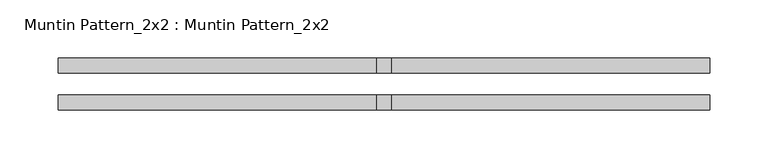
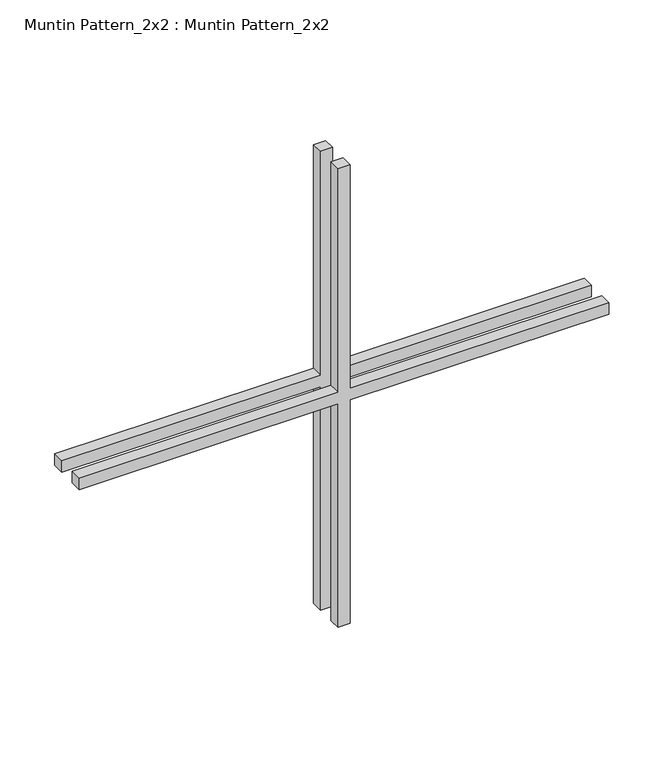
"""IFC4 building model written with IfcOpenShell, lengths in millimetres: proxy geometry, Muntin Pattern_2x2 : Muntin Pattern_2x2."""

from ifc_helpers import new_model, si_unit, frame, origin, place, context, project, spatial, polyline, outline, extrude, source, transform, mapped, element, save


def muntin_pattern_2x2_muntin_pattern_2x2_6bac9242(model_context):
    return source(origin(), model_context, "Body", "SweptSolid", [
        extrude(outline(polyline([(261.9375, -6.35), (261.9375, -279.4), (249.2375, -279.4), (249.2375, -6.35), (0.0, -6.35), (0.0, 6.35), (249.2375, 6.35), (249.2375, 279.4), (261.9375, 279.4), (261.9375, 6.35), (511.175, 6.35), (511.175, -6.35), (261.9375, -6.35)])), frame((0.0, 9.525, 0.0), z_axis=(0.0, 1.0, 0.0), x_axis=(0.0, 0.0, 1.0)), (0.0, 0.0, 1.0), 12.7),
        extrude(outline(polyline([(261.9375, -6.35), (261.9375, -279.4), (249.2375, -279.4), (249.2375, -6.35), (0.0, -6.35), (0.0, 6.35), (249.2375, 6.35), (249.2375, 279.4), (261.9375, 279.4), (261.9375, 6.35), (511.175, 6.35), (511.175, -6.35), (261.9375, -6.35)])), frame((0.0, -22.225, 0.0), z_axis=(0.0, 1.0, 0.0), x_axis=(0.0, 0.0, 1.0)), (0.0, 0.0, 1.0), 12.7),
    ])


if __name__ == "__main__":
    model = new_model("IFC4")
    model_context = context("Model", 3, world=origin())
    ifc_project = project(units=[si_unit("LENGTHUNIT", "METRE", prefix="MILLI")], contexts=[model_context])
    site = spatial("IfcSite", under=ifc_project)
    building = spatial("IfcBuilding", under=site)
    placement = place(None, origin())
    muntin_pattern_2x2_muntin_pattern_2x2_shape = muntin_pattern_2x2_muntin_pattern_2x2_6bac9242(model_context)
    element("IfcBuildingElementProxy", 1, Name="Muntin Pattern_2x2 : Muntin Pattern_2x2", ObjectType="Muntin Pattern_2x2 : Muntin Pattern_2x2", at=placement, inside=building, context=model_context, shape_type="MappedRepresentation", body=[
        mapped(muntin_pattern_2x2_muntin_pattern_2x2_shape, transform((0.0, 0.0, 0.0), x_axis=(1.0, 0.0, 0.0), y_axis=(0.0, 1.0, 0.0), z_axis=(0.0, 0.0, 1.0))),
    ])
    save(model, "model.ifc")
